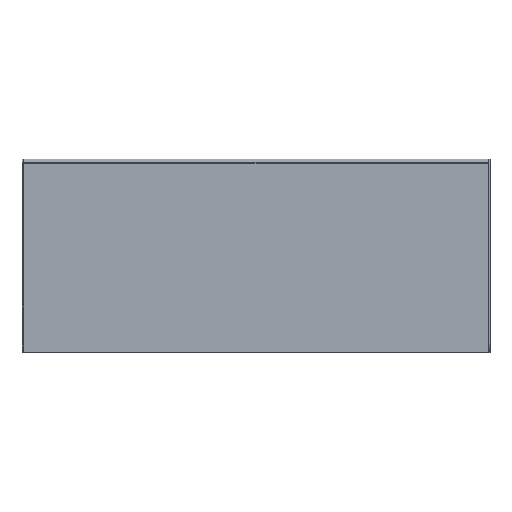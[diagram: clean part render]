
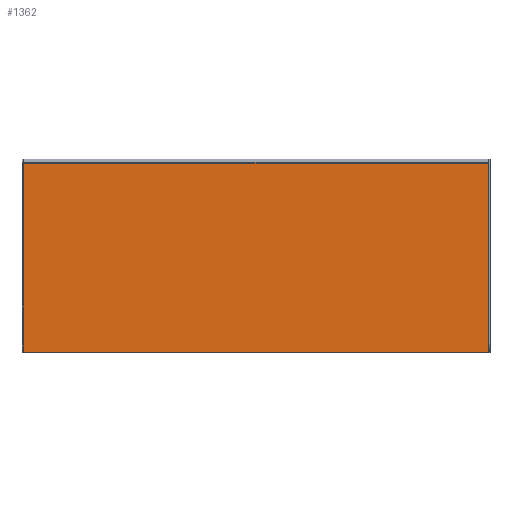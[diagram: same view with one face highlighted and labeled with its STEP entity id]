
A CAD part, front view. The second image highlights one B-rep face of the part: STEP entity #1362.
In plain terms, the highlighted planar face has unit normal (0, -1, 0).
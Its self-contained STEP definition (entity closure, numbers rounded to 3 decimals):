
#20 = DIRECTION ( 'NONE',  ( 0., 0., 1. ) ) ;
#104 = EDGE_CURVE ( 'NONE', #494, #1551, #1430, .T. ) ;
#125 = ORIENTED_EDGE ( 'NONE', *, *, #916, .F. ) ;
#154 = CARTESIAN_POINT ( 'NONE',  ( 597., -15., -247. ) ) ;
#298 = PLANE ( 'NONE',  #1256 ) ;
#376 = EDGE_LOOP ( 'NONE', ( #1154, #125, #1136, #1258 ) ) ;
#378 = EDGE_CURVE ( 'NONE', #1551, #990, #1129, .T. ) ;
#494 = VERTEX_POINT ( 'NONE', #1035 ) ;
#585 = CARTESIAN_POINT ( 'NONE',  ( 0., -15., 0. ) ) ;
#595 = CARTESIAN_POINT ( 'NONE',  ( -597., -15., 247. ) ) ;
#647 = EDGE_CURVE ( 'NONE', #990, #1196, #797, .T. ) ;
#654 = DIRECTION ( 'NONE',  ( 0., 0., -1. ) ) ;
#683 = CARTESIAN_POINT ( 'NONE',  ( -597., -15., 247. ) ) ;
#702 = VECTOR ( 'NONE', #20, 1000. ) ;
#793 = CARTESIAN_POINT ( 'NONE',  ( 597., -15., 247. ) ) ;
#797 = LINE ( 'NONE', #683, #702 ) ;
#817 = VECTOR ( 'NONE', #654, 1000. ) ;
#916 = EDGE_CURVE ( 'NONE', #1196, #494, #1110, .T. ) ;
#959 = DIRECTION ( 'NONE',  ( 0., -1., 0. ) ) ;
#962 = DIRECTION ( 'NONE',  ( -1., 0., 0. ) ) ;
#985 = DIRECTION ( 'NONE',  ( 1., 0., 0. ) ) ;
#990 = VERTEX_POINT ( 'NONE', #1128 ) ;
#1035 = CARTESIAN_POINT ( 'NONE',  ( 597., -15., 247. ) ) ;
#1110 = LINE ( 'NONE', #595, #1200 ) ;
#1128 = CARTESIAN_POINT ( 'NONE',  ( -597., -15., -247. ) ) ;
#1129 = LINE ( 'NONE', #1660, #1240 ) ;
#1136 = ORIENTED_EDGE ( 'NONE', *, *, #647, .F. ) ;
#1154 = ORIENTED_EDGE ( 'NONE', *, *, #104, .F. ) ;
#1196 = VERTEX_POINT ( 'NONE', #1452 ) ;
#1200 = VECTOR ( 'NONE', #985, 1000. ) ;
#1240 = VECTOR ( 'NONE', #962, 1000. ) ;
#1256 = AXIS2_PLACEMENT_3D ( 'NONE', #585, #959, #1376 ) ;
#1258 = ORIENTED_EDGE ( 'NONE', *, *, #378, .F. ) ;
#1362 = ADVANCED_FACE ( 'NONE', ( #1502 ), #298, .T. ) ;
#1376 = DIRECTION ( 'NONE',  ( 0., 0., -1. ) ) ;
#1430 = LINE ( 'NONE', #793, #817 ) ;
#1452 = CARTESIAN_POINT ( 'NONE',  ( -597., -15., 247. ) ) ;
#1502 = FACE_OUTER_BOUND ( 'NONE', #376, .T. ) ;
#1551 = VERTEX_POINT ( 'NONE', #154 ) ;
#1660 = CARTESIAN_POINT ( 'NONE',  ( -597., -15., -247. ) ) ;
